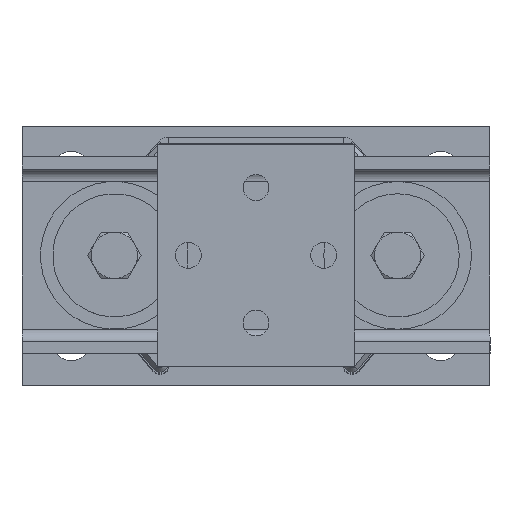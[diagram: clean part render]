
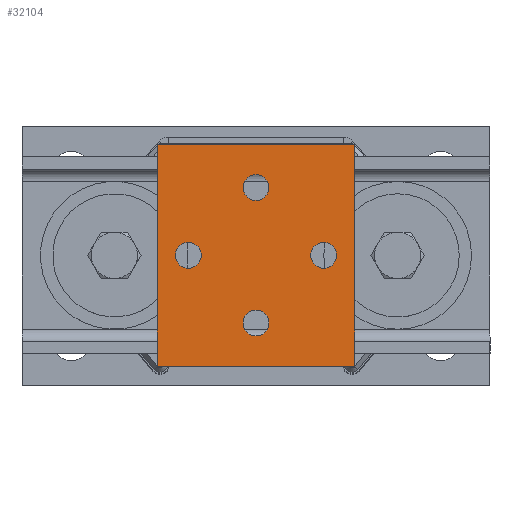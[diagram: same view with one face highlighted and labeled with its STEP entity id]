
A CAD part, top view. The second image highlights one B-rep face of the part: STEP entity #32104.
In plain terms, the highlighted planar face has unit normal (0, 0, 1).
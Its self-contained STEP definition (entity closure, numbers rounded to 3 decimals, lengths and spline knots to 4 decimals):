
#617=LINE('',#45323,#4367);
#621=LINE('',#45331,#4371);
#624=LINE('',#45337,#4374);
#627=LINE('',#45342,#4377);
#4367=VECTOR('',#37231,4.5);
#4371=VECTOR('',#37237,4.);
#4374=VECTOR('',#37242,4.5);
#4377=VECTOR('',#37247,4.);
#7906=PLANE('',#34190);
#9433=FACE_BOUND('',#12006,.T.);
#9434=FACE_BOUND('',#12007,.T.);
#9435=FACE_BOUND('',#12008,.T.);
#9436=FACE_BOUND('',#12009,.T.);
#10094=FACE_OUTER_BOUND('',#12005,.T.);
#12005=EDGE_LOOP('',(#22528,#22529,#22530,#22531));
#12006=EDGE_LOOP('',(#22532));
#12007=EDGE_LOOP('',(#22533));
#12008=EDGE_LOOP('',(#22534));
#12009=EDGE_LOOP('',(#22535));
#14162=CIRCLE('',#34175,0.2635);
#14164=CIRCLE('',#34178,0.2635);
#14166=CIRCLE('',#34181,0.2635);
#14168=CIRCLE('',#34184,0.2635);
#14706=VERTEX_POINT('',#45303);
#14708=VERTEX_POINT('',#45308);
#14710=VERTEX_POINT('',#45313);
#14712=VERTEX_POINT('',#45318);
#14713=VERTEX_POINT('',#45321);
#14714=VERTEX_POINT('',#45322);
#14717=VERTEX_POINT('',#45330);
#14719=VERTEX_POINT('',#45336);
#17724=EDGE_CURVE('',#14706,#14706,#14162,.T.);
#17726=EDGE_CURVE('',#14708,#14708,#14164,.T.);
#17728=EDGE_CURVE('',#14710,#14710,#14166,.T.);
#17730=EDGE_CURVE('',#14712,#14712,#14168,.T.);
#17731=EDGE_CURVE('',#14713,#14714,#617,.T.);
#17735=EDGE_CURVE('',#14714,#14717,#621,.T.);
#17738=EDGE_CURVE('',#14717,#14719,#624,.T.);
#17741=EDGE_CURVE('',#14719,#14713,#627,.T.);
#22528=ORIENTED_EDGE('',*,*,#17731,.F.);
#22529=ORIENTED_EDGE('',*,*,#17741,.F.);
#22530=ORIENTED_EDGE('',*,*,#17738,.F.);
#22531=ORIENTED_EDGE('',*,*,#17735,.F.);
#22532=ORIENTED_EDGE('',*,*,#17724,.T.);
#22533=ORIENTED_EDGE('',*,*,#17726,.T.);
#22534=ORIENTED_EDGE('',*,*,#17728,.T.);
#22535=ORIENTED_EDGE('',*,*,#17730,.T.);
#32104=ADVANCED_FACE('',(#10094,#9433,#9434,#9435,#9436),#7906,.T.);
#34175=AXIS2_PLACEMENT_3D('',#45304,#37209,#37210);
#34178=AXIS2_PLACEMENT_3D('',#45309,#37215,#37216);
#34181=AXIS2_PLACEMENT_3D('',#45314,#37221,#37222);
#34184=AXIS2_PLACEMENT_3D('',#45319,#37227,#37228);
#34190=AXIS2_PLACEMENT_3D('',#45345,#37251,#37252);
#37209=DIRECTION('center_axis',(0.,0.,
-1.));
#37210=DIRECTION('ref_axis',(1.,0.,0.));
#37215=DIRECTION('center_axis',(0.,0.,
-1.));
#37216=DIRECTION('ref_axis',(1.,0.,0.));
#37221=DIRECTION('center_axis',(0.,0.,
-1.));
#37222=DIRECTION('ref_axis',(1.,0.,0.));
#37227=DIRECTION('center_axis',(0.,0.,
-1.));
#37228=DIRECTION('ref_axis',(1.,0.,0.));
#37231=DIRECTION('',(0.,1.,0.));
#37237=DIRECTION('',(1.,0.,0.));
#37242=DIRECTION('',(0.,-1.,0.));
#37247=DIRECTION('',(-1.,0.,0.));
#37251=DIRECTION('center_axis',(0.,0.,
1.));
#37252=DIRECTION('ref_axis',(1.,0.,0.));
#45303=CARTESIAN_POINT('',(-1.1115,0.,8.75));
#45304=CARTESIAN_POINT('Origin',(-1.375,0.,
8.75));
#45308=CARTESIAN_POINT('',(1.6385,0.,8.75));
#45309=CARTESIAN_POINT('Origin',(1.375,0.,
8.75));
#45313=CARTESIAN_POINT('',(0.2635,1.375,8.75));
#45314=CARTESIAN_POINT('Origin',(0.,1.375,8.75));
#45318=CARTESIAN_POINT('',(0.2635,-1.375,8.75));
#45319=CARTESIAN_POINT('Origin',(0.,-1.375,
8.75));
#45321=CARTESIAN_POINT('',(-2.,-2.25,8.75));
#45322=CARTESIAN_POINT('',(-2.,2.25,8.75));
#45323=CARTESIAN_POINT('',(-2.,2.25,8.75));
#45330=CARTESIAN_POINT('',(2.,2.25,8.75));
#45331=CARTESIAN_POINT('',(2.,2.25,8.75));
#45336=CARTESIAN_POINT('',(2.,-2.25,8.75));
#45337=CARTESIAN_POINT('',(2.,-2.25,8.75));
#45342=CARTESIAN_POINT('',(-2.,-2.25,8.75));
#45345=CARTESIAN_POINT('Origin',(0.,0.,
8.75));
